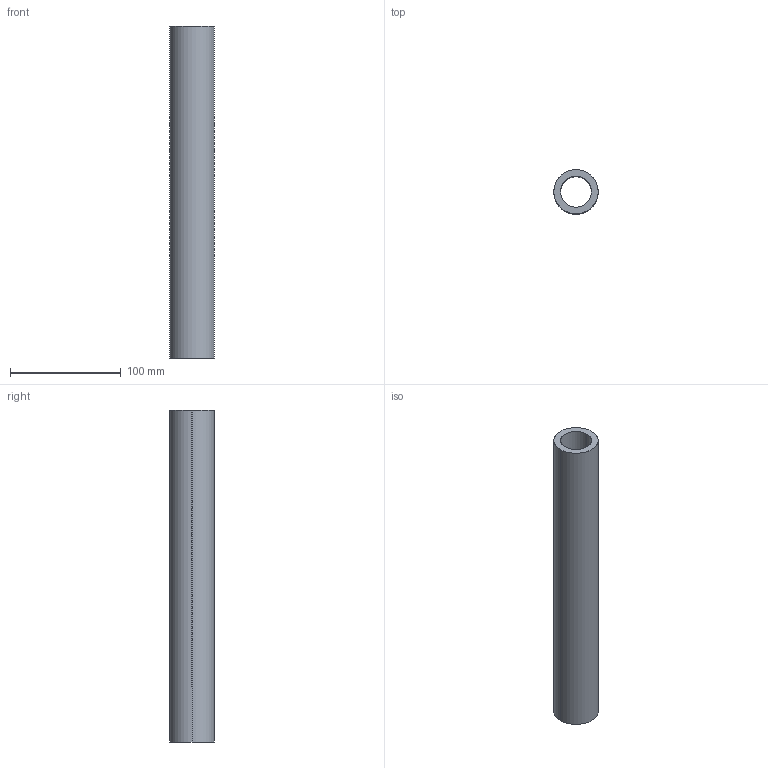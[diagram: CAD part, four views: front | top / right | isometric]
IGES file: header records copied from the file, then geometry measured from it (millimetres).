
Start section: SolidWorks IGES file using analytic representation for surfaces
Global section: file name: C:\Users\IanO\Desktop\L1771_v2\L1771.40_v2\L1771.40_v2_20230705_IGES\L1771.40-0300.igs; native system: SolidWorks 2019; preprocessor: SolidWorks 2019; author: IanO; date: 230705.155855; units: millimetre
Bounding box: 40 x 40 x 300 mm (x, y, z)
Surface area: 65370.3 mm2 (no closed solid volume)
Topology: 0 solids, 0 shells, 6 faces, 272 edges, 272 vertices
Faces by surface type: revolution 4, bspline 2
